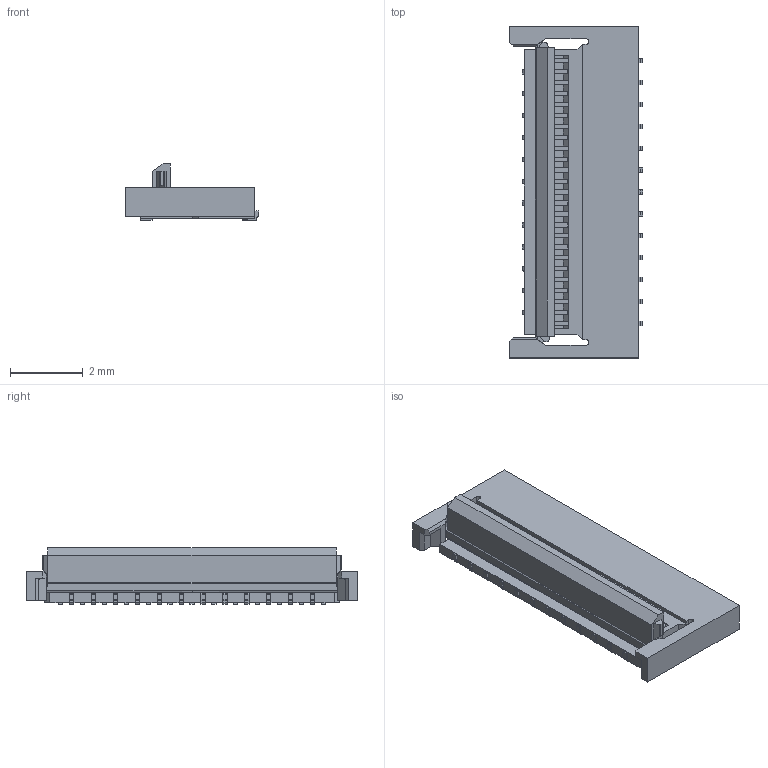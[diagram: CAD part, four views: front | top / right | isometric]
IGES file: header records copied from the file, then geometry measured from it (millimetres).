
Start section: SolidWorks IGES file using analytic representation for surfaces
Global section: file name: N:\Kamikawa_Hisako\★三次元モデル作成依頼\6293\20260415_04_6293_6XX_105_468+_OPEN\MK_Web掲載用\04_6293_625_105_468+.IGS,15HSolidWorks; native system: 2023; preprocessor: SolidWorks 2023; author: 00P18040014; date: 260421.101731; units: millimetre
Bounding box: 3.65 x 9.1 x 1.54 mm (x, y, z)
Surface area: 137.7 mm2 (no closed solid volume)
Topology: 0 solids, 0 shells, 520 faces, 3391 edges, 3391 vertices
Faces by surface type: bspline 520
